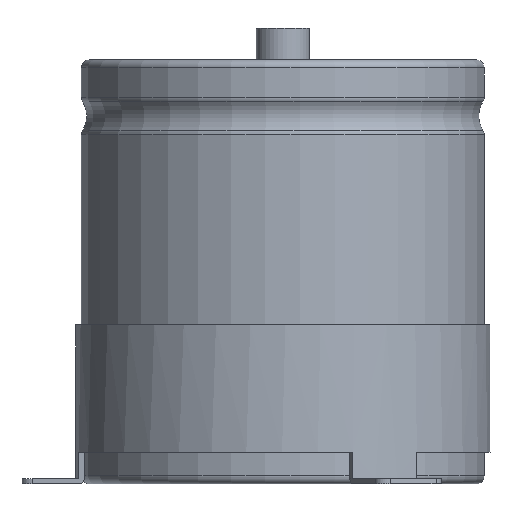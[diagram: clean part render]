
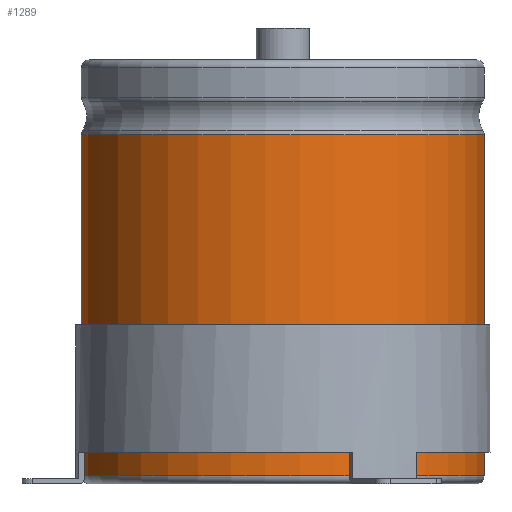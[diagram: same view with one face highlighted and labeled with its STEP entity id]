
A CAD part, front view. The second image highlights one B-rep face of the part: STEP entity #1289.
In plain terms, the highlighted cylindrical face has radius 38.1 mm (diameter 76.2 mm), a partial arc.
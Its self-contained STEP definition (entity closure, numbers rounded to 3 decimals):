
#233=LINE('',#6601,#447);
#234=LINE('',#6605,#448);
#447=VECTOR('',#5224,1.);
#448=VECTOR('',#5227,1.);
#695=FACE_OUTER_BOUND('',#1741,.T.);
#1289=ADVANCED_FACE('',(#695),#1519,.T.);
#1519=CYLINDRICAL_SURFACE('',#4585,38.1);
#1741=EDGE_LOOP('',(#2147,#2148,#2149,#2150));
#2147=ORIENTED_EDGE('',*,*,#3702,.T.);
#2148=ORIENTED_EDGE('',*,*,#3703,.T.);
#2149=ORIENTED_EDGE('',*,*,#3704,.F.);
#2150=ORIENTED_EDGE('',*,*,#3705,.F.);
#3274=VERTEX_POINT('',#6594);
#3276=VERTEX_POINT('',#6598);
#3277=VERTEX_POINT('',#6602);
#3278=VERTEX_POINT('',#6604);
#3702=EDGE_CURVE('',#3274,#3276,#4267,.T.);
#3703=EDGE_CURVE('',#3276,#3277,#233,.T.);
#3704=EDGE_CURVE('',#3278,#3277,#4268,.T.);
#3705=EDGE_CURVE('',#3274,#3278,#234,.T.);
#4267=CIRCLE('',#4582,38.1);
#4268=CIRCLE('',#4584,38.1);
#4582=AXIS2_PLACEMENT_3D('',#6599,#5220,#5221);
#4584=AXIS2_PLACEMENT_3D('',#6603,#5225,#5226);
#4585=AXIS2_PLACEMENT_3D('',#6606,#5228,#5229);
#5220=DIRECTION('',(0.,0.,-1.));
#5221=DIRECTION('',(0.,1.,0.));
#5224=DIRECTION('',(0.,0.,-1.));
#5225=DIRECTION('',(0.,0.,-1.));
#5226=DIRECTION('',(0.,1.,0.));
#5227=DIRECTION('',(0.,0.,-1.));
#5228=DIRECTION('',(0.,0.,-1.));
#5229=DIRECTION('',(0.,1.,0.));
#6594=CARTESIAN_POINT('',(3.983,37.891,65.9));
#6598=CARTESIAN_POINT('',(-3.983,37.891,65.9));
#6599=CARTESIAN_POINT('',(0.,0.,65.9));
#6601=CARTESIAN_POINT('',(-3.983,37.891,65.9));
#6602=CARTESIAN_POINT('',(-3.983,37.891,1.5));
#6603=CARTESIAN_POINT('',(0.,0.,1.5));
#6604=CARTESIAN_POINT('',(3.983,37.891,1.5));
#6605=CARTESIAN_POINT('',(3.983,37.891,65.9));
#6606=CARTESIAN_POINT('',(0.,0.,0.));
